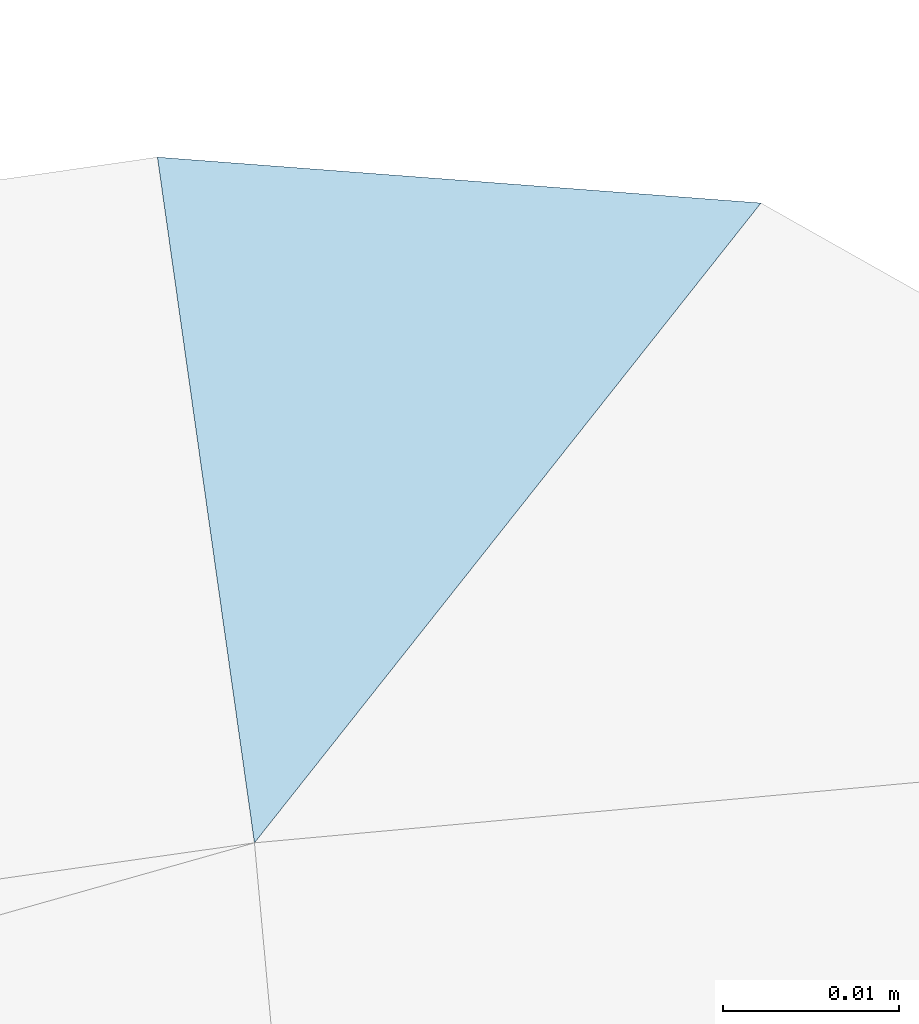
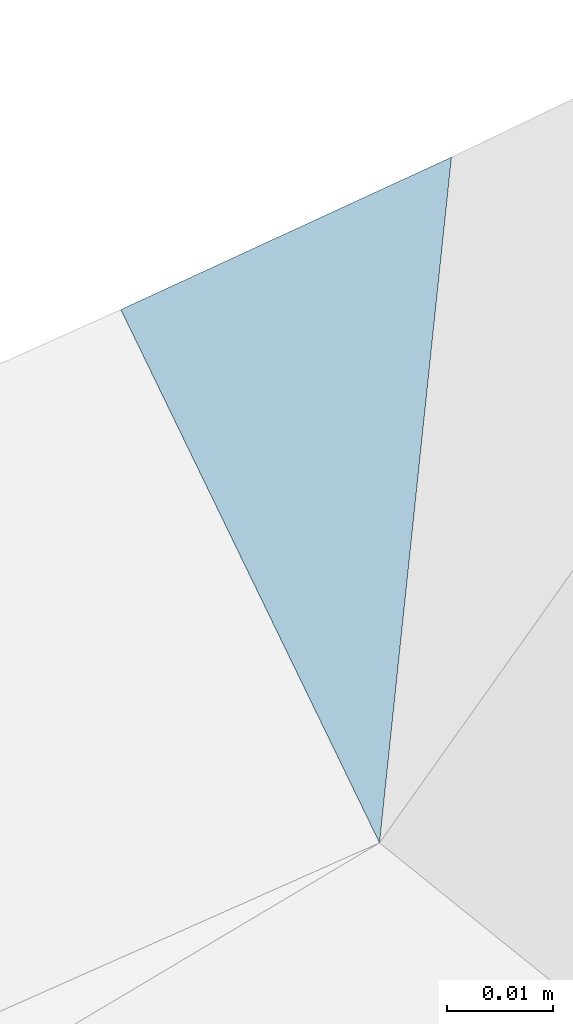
# One storey, part 14 of 14: 1 slab.
"""IFC2X3 building model written with IfcOpenShell, lengths in metres."""

import ifcopenshell
import ifcopenshell.guid

model = None  # the IFC model being written
_history = None  # IfcOwnerHistory: only IFC2X3 demands one
_inside = {}  # id of a spatial element -> (the spatial element, [elements in it])
_under = {}  # id of a project, library or spatial element -> (it, [spatial elements below it])
_declared = {}  # id of a project -> (the project, [libraries it declares])
_typed = {}  # id of a type object -> (the type object, [elements of that type])
_made_of = {}  # id of a material, layer set ... -> (it, [elements and type objects made of it])


def new_model(schema):
    """Start an empty IFC model of exactly this schema.

    Asked for "IFC4X3", IfcOpenShell would pick the latest addendum, in which some entities
    have other attributes; the version numbers below select the first issue.
    IFC2X3 requires an IfcOwnerHistory on every rooted entity: one is made here for all.
    """
    global model, _history
    if schema == "IFC4X3":
        model = ifcopenshell.file(schema_version=(4, 3, 0, 0))
    else:
        model = ifcopenshell.file(schema=schema)
    _inside.clear()
    _under.clear()
    _declared.clear()
    _typed.clear()
    _made_of.clear()
    _history = None
    if model.schema == "IFC2X3":
        org = make("IfcOrganization", Name="unknown")
        user = make(
            "IfcPersonAndOrganization",
            ThePerson=make("IfcPerson", FamilyName="unknown"),
            TheOrganization=org,
        )
        app = make(
            "IfcApplication",
            ApplicationDeveloper=org,
            Version="unknown",
            ApplicationFullName="unknown",
            ApplicationIdentifier="unknown",
        )
        _history = make(
            "IfcOwnerHistory",
            OwningUser=user,
            OwningApplication=app,
            ChangeAction="ADDED",
            CreationDate=0,
        )
    return model


def make(cls, **values):
    """One entity of the class cls with the attributes given. An attribute that is None is left unset."""
    return model.create_entity(
        cls, **{name: value for name, value in values.items() if value is not None}
    )


def rooted(cls, **values):
    """An entity with a GlobalId (a new one), such as an element, a storey or a relation."""
    return make(cls, GlobalId=ifcopenshell.guid.new(), OwnerHistory=_history, **values)


def si_unit(unit_type, name, prefix=None):
    """IfcSIUnit, for example si_unit("LENGTHUNIT", "METRE", prefix="MILLI")."""
    return make("IfcSIUnit", UnitType=unit_type, Prefix=prefix, Name=name)


def assignment(units):
    """IfcUnitAssignment: the units of a project."""
    return None if units is None else make("IfcUnitAssignment", Units=units)


def point(xyz):
    """IfcCartesianPoint."""
    return None if xyz is None else make("IfcCartesianPoint", Coordinates=xyz)


def direction(xyz):
    """IfcDirection."""
    return None if xyz is None else make("IfcDirection", DirectionRatios=xyz)


def frame(location, z_axis=None, x_axis=None):
    """IfcAxis2Placement3D, a coordinate frame: its origin and axes. An axis left out is left unset."""
    return make(
        "IfcAxis2Placement3D",
        Location=point(location),
        Axis=direction(z_axis),
        RefDirection=direction(x_axis),
    )


def origin():
    """The frame at (0, 0, 0) with its axes left unset."""
    return frame((0.0, 0.0, 0.0))


def origin_with_axes():
    """The frame at (0, 0, 0) with the z axis (0, 0, 1) and the x axis (1, 0, 0) written out."""
    return frame((0.0, 0.0, 0.0), z_axis=(0.0, 0.0, 1.0), x_axis=(1.0, 0.0, 0.0))


def place(relative_to, where):
    """IfcLocalPlacement: puts the frame where relative to a parent placement (None: the world)."""
    return make(
        "IfcLocalPlacement", PlacementRelTo=relative_to, RelativePlacement=where
    )


def context(
    kind, dimensions, precision=None, world=None, true_north=None, identifier=None
):
    """IfcGeometricRepresentationContext, for example the 3D "Model" context."""
    return make(
        "IfcGeometricRepresentationContext",
        ContextIdentifier=identifier,
        ContextType=kind,
        CoordinateSpaceDimension=dimensions,
        Precision=precision,
        WorldCoordinateSystem=world,
        TrueNorth=true_north,
    )


def subcontext(parent, identifier, kind, view, scale=None):
    """IfcGeometricRepresentationSubContext, for example "Body" below "Model"."""
    return make(
        "IfcGeometricRepresentationSubContext",
        ContextIdentifier=identifier,
        ContextType=kind,
        ParentContext=parent,
        TargetScale=scale,
        TargetView=view,
    )


def project(units=None, contexts=None):
    """IfcProject with its units and contexts."""
    return rooted(
        "IfcProject",
        Name="project",
        RepresentationContexts=contexts,
        UnitsInContext=assignment(units),
    )


def spatial(cls, under=None, at=None, **own):
    """A site, building, storey or space (cls), placed at a placement, below another one or the project."""
    s = rooted(cls, ObjectPlacement=at, **own)
    if under is not None:
        _under.setdefault(under.id(), (under, []))[1].append(s)
    return s


def faces_of(points, faces, orient=None, outer=None):
    """IfcFace entities. A face is a list of loops; a loop is a list of indices into points, from 0.

    orient and outer hold one flag for each loop. By default every Orientation is true, the
    first loop of a face is its IfcFaceOuterBound and the others are IfcFaceBound.
    """
    made = []
    for i, loops in enumerate(faces):
        bounds = []
        for j, loop in enumerate(loops):
            is_outer = j == 0 if outer is None else outer[i][j]
            bounds.append(
                make(
                    "IfcFaceOuterBound" if is_outer else "IfcFaceBound",
                    Bound=make("IfcPolyLoop", Polygon=[points[k] for k in loop]),
                    Orientation=True if orient is None else orient[i][j],
                )
            )
        made.append(make("IfcFace", Bounds=bounds))
    return made


def faceted_brep(points, faces, orient=None, outer=None, voids=None):
    """IfcFacetedBrep: a solid bounded by flat faces; with voids (closed shells), ...WithVoids."""
    shared = [point(p) for p in points]
    hull = make("IfcClosedShell", CfsFaces=faces_of(shared, faces, orient, outer))
    if voids is None:
        return make("IfcFacetedBrep", Outer=hull)
    return make(
        "IfcFacetedBrepWithVoids",
        Outer=hull,
        Voids=[
            make(cls, CfsFaces=faces_of(shared, fs, o, b)) for cls, fs, o, b in voids
        ],
    )


def shape(context_of_items, identifier, shape_type, items):
    """IfcShapeRepresentation: the items that make up one representation, for example the "Body"."""
    return make(
        "IfcShapeRepresentation",
        ContextOfItems=context_of_items,
        RepresentationIdentifier=identifier,
        RepresentationType=shape_type,
        Items=items,
    )


def made_of(thing, what):
    """Note that an element or type object is made of a material, layer set ...; save() writes the relation."""
    if what is not None:
        _made_of.setdefault(what.id(), (what, []))[1].append(thing)
    return thing


def element(
    cls,
    number,
    at=None,
    inside=None,
    cuts=None,
    type_object=None,
    material=None,
    context=None,
    identifier="Body",
    shape_type=None,
    held_by="IfcProductDefinitionShape",
    body=None,
    shapes=None,
    **own,
):
    """One element of the class cls, such as IfcWall. Its Tag is "e" and its number.

    at: its placement. inside: the storey or other place that contains it. cuts: it is an
    opening in that element (IfcRelVoidsElement). A single representation is given by context,
    identifier, shape_type and body (its items); several are given by shapes. held_by: the class
    of the entity that holds the representations. save() writes the other relations.
    """
    e = rooted(cls, Tag="e%d" % number, ObjectPlacement=at, **own)
    if body is not None:
        shapes = [shape(context, identifier, shape_type, body)]
    if shapes is not None:
        e.Representation = make(held_by, Representations=shapes)
    if inside is not None:
        _inside.setdefault(inside.id(), (inside, []))[1].append(e)
    if cuts is not None:
        rooted(
            "IfcRelVoidsElement", RelatingBuildingElement=cuts, RelatedOpeningElement=e
        )
    if type_object is not None:
        _typed.setdefault(type_object.id(), (type_object, []))[1].append(e)
    return made_of(e, material)


def aggregate(whole, parts):
    """IfcRelAggregates: a whole, such as a stair, and the parts it consists of."""
    return rooted("IfcRelAggregates", RelatingObject=whole, RelatedObjects=parts)


def save(model, path):
    """Write the relations noted so far, then the file.

    IfcRelAggregates (storeys below a building ...), IfcRelContainedInSpatialStructure (elements
    in a storey), IfcRelDefinesByType, IfcRelAssociatesMaterial and IfcRelDeclares: one each for
    every whole, place, type object, material and project.
    """
    for whole, parts in _under.values():
        aggregate(whole, parts)
    for where, things in _inside.values():
        rooted(
            "IfcRelContainedInSpatialStructure",
            RelatedElements=things,
            RelatingStructure=where,
        )
    for kind, things in _typed.values():
        rooted("IfcRelDefinesByType", RelatedObjects=things, RelatingType=kind)
    for what, things in _made_of.values():
        rooted("IfcRelAssociatesMaterial", RelatedObjects=things, RelatingMaterial=what)
    for by, libraries in _declared.values():
        rooted("IfcRelDeclares", RelatingContext=by, RelatedDefinitions=libraries)
    model.write(path)


model = new_model("IFC2X3")

# Units and contexts
context_of_model = context(None, 3, world=origin_with_axes())
sub_context = subcontext(context_of_model, None, None, "MODEL_VIEW")
ifc_project = project(units=[si_unit("LENGTHUNIT", "METRE"), si_unit("AREAUNIT", "SQUARE_METRE"), si_unit("VOLUMEUNIT", "CUBIC_METRE"), si_unit("PLANEANGLEUNIT", "RADIAN"), si_unit("MASSUNIT", "GRAM", prefix="KILO")])

# Site, building, storey
site_placement = place(None, origin_with_axes())
site = spatial("IfcSite", under=ifc_project, at=site_placement, Name="Site.1", CompositionType="ELEMENT")
building_placement = place(site_placement, origin())
building = spatial("IfcBuilding", under=site, at=building_placement, Name="Building.1", CompositionType="ELEMENT")
storey_placement = place(building_placement, origin())
storey = spatial("IfcBuildingStorey", under=building, at=storey_placement, Name="VRD", CompositionType="ELEMENT")

# Slab
slab_placement = place(storey_placement, origin())
element("IfcSlab", 1, at=slab_placement, inside=storey, Name="PJ FINI n°95", PredefinedType="USERDEFINED", context=sub_context, shape_type="Brep", body=[
    faceted_brep([(-6.599849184, 33.055473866, -0.018248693), (-6.605372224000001, 33.094505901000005, 0.021172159), (-6.571016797, 33.091895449, 0.028203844)], [[[0, 1, 2]]]),
])

save(model, "model.ifc")
